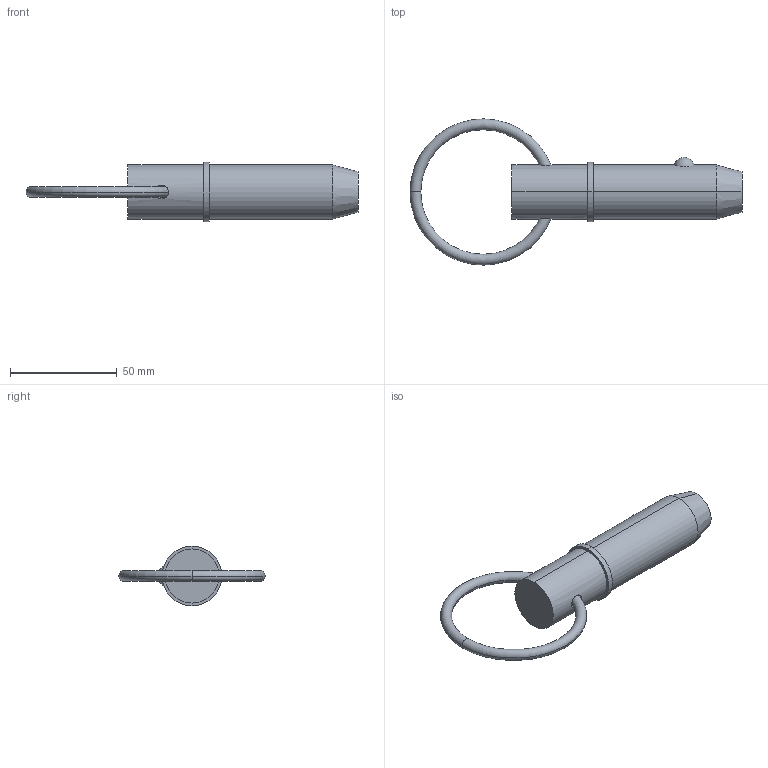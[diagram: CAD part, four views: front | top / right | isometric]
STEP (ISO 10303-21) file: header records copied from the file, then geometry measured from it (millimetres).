
FILE_DESCRIPTION (( 'STEP AP203' ), '1' );
FILE_NAME ('33014.W1015.step', '2024-11-04T08:39:00', ( '' ), ( '' ), 'SwSTEP 2.0', 'SolidWorks 2019', '' );
FILE_SCHEMA (( 'CONFIG_CONTROL_DESIGN' ));
Length unit declared in the file: millimetre
Products named in the file (3): Part2_33014.W1015; Part1_33014.W1015; 33014.W1015
Assembly tree (2 placements, depth 2):
  33014.W1015
    Part1_33014.W1015
    Part2_33014.W1015
Bounding box: 155.72 x 68.58 x 27.94 mm (x, y, z)
Volume: 56976.7 mm3; surface area: 13226.7 mm2
Topology: 2 solids, 2 shells, 22 faces, 43 edges, 26 vertices
Faces by surface type: torus 8, cylinder 6, plane 4, sphere 2, cone 2
Entity records: 1075 total; most frequent: CARTESIAN_POINT 298, DIRECTION 120, ORIENTED_EDGE 86, AXIS2_PLACEMENT_3D 56, EDGE_CURVE 43, CIRCLE 29, EDGE_LOOP 27, PERSON_AND_ORGANIZATION 26
